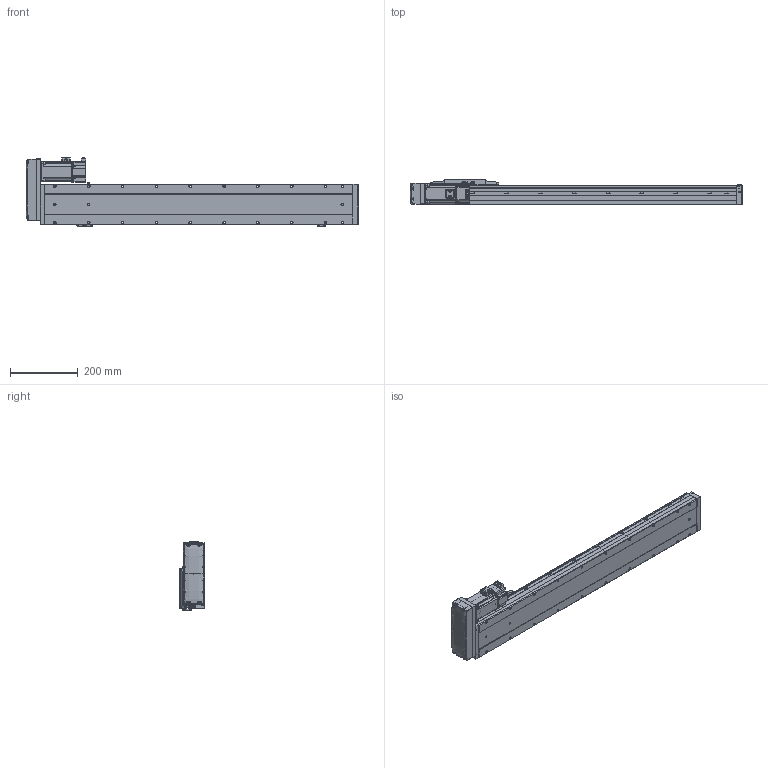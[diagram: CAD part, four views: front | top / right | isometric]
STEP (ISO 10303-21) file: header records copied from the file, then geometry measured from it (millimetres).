
FILE_DESCRIPTION (( 'STEP AP214' ), '1' );
FILE_NAME ('CTH12-L10-S700-BL-C40（简）.STEP', '2023-02-06T04:55:52', ( '' ), ( '' ), 'SwSTEP 2.0', 'SolidWorks 2018', '' );
FILE_SCHEMA (( 'AUTOMOTIVE_DESIGN' ));
Length unit declared in the file: millimetre
Products named in the file (24): CTH12-L10-S700-BL-C40（简）; 400W萇儂; CTH12賑怢郪磁; CTH12耜蚾裔; CTH12賑怢ㄗ潠ㄘ; CTH12-BL_body_4; CTH嫖萇羲壽假蚾啣; CTH12侧装连接板（标准）简; PM-Y45; 湮賑怢  裔赽-1(CTH12)賑怢; CTH400W垫板（3个厚）; hex nuts, style 1-grades ab gb_GB_FASTENER_NUT_SNAB1 M3-N; M5蹟隊; 内六角圆柱头螺钉M3-1; 嫖萇羲壽郪磁2; CTH12; 嫖萇羲壽郪磁1; CTH12_body_3; 内六角圆柱头螺钉M3-2; 内六角圆柱头螺钉M3; 蚐郲; CTH12底座-L911简（700行程）; CTH400W假蚾啣; CTH12覜茼え
Assembly tree (44 placements, depth 4):
  CTH12-L10-S700-BL-C40（简）
    CTH12底座-L911简（700行程）
    蚐郲  x2
    CTH12_body_3
    CTH12-BL_body_4
    CTH12侧装连接板（标准）简
    CTH12耜蚾裔
    CTH12賑怢郪磁
      CTH12
        湮賑怢  裔赽-1(CTH12)賑怢
        CTH12賑怢ㄗ潠ㄘ
    CTH12覜茼え
    CTH400W垫板（3个厚）
    400W萇儂
    内六角圆柱头螺钉M3  x6
    M5蹟隊  x4
    嫖萇羲壽郪磁1
      CTH嫖萇羲壽假蚾啣
      PM-Y45
      内六角圆柱头螺钉M3-2  x2
      内六角圆柱头螺钉M3-1  x2
      hex nuts, style 1-grades ab gb_GB_FASTENER_NUT_SNAB1 M3-N  x2
    嫖萇羲壽郪磁2  x2
      CTH嫖萇羲壽假蚾啣
      PM-Y45
      内六角圆柱头螺钉M3-1
      内六角圆柱头螺钉M3-2
      hex nuts, style 1-grades ab gb_GB_FASTENER_NUT_SNAB1 M3-N
    CTH400W假蚾啣
Bounding box: 981.5 x 76 x 205.26 mm (x, y, z)
Volume: 6636179.1 mm3; surface area: 694043.3 mm2
Topology: 47 solids, 48 shells, 3266 faces, 8153 edges, 5109 vertices
Faces by surface type: plane 1578, cylinder 935, cone 439, bspline 186, torus 124, sphere 4
Entity records: 107642 total; most frequent: CARTESIAN_POINT 39994, ORIENTED_EDGE 13408, DIRECTION 12686, EDGE_CURVE 6704, AXIS2_PLACEMENT_3D 4448, VERTEX_POINT 4213, VECTOR 3790, LINE 3790
